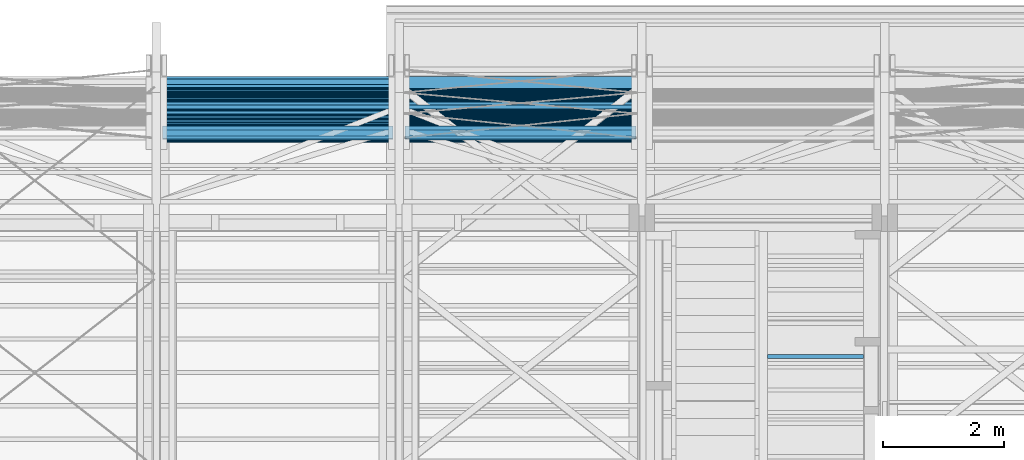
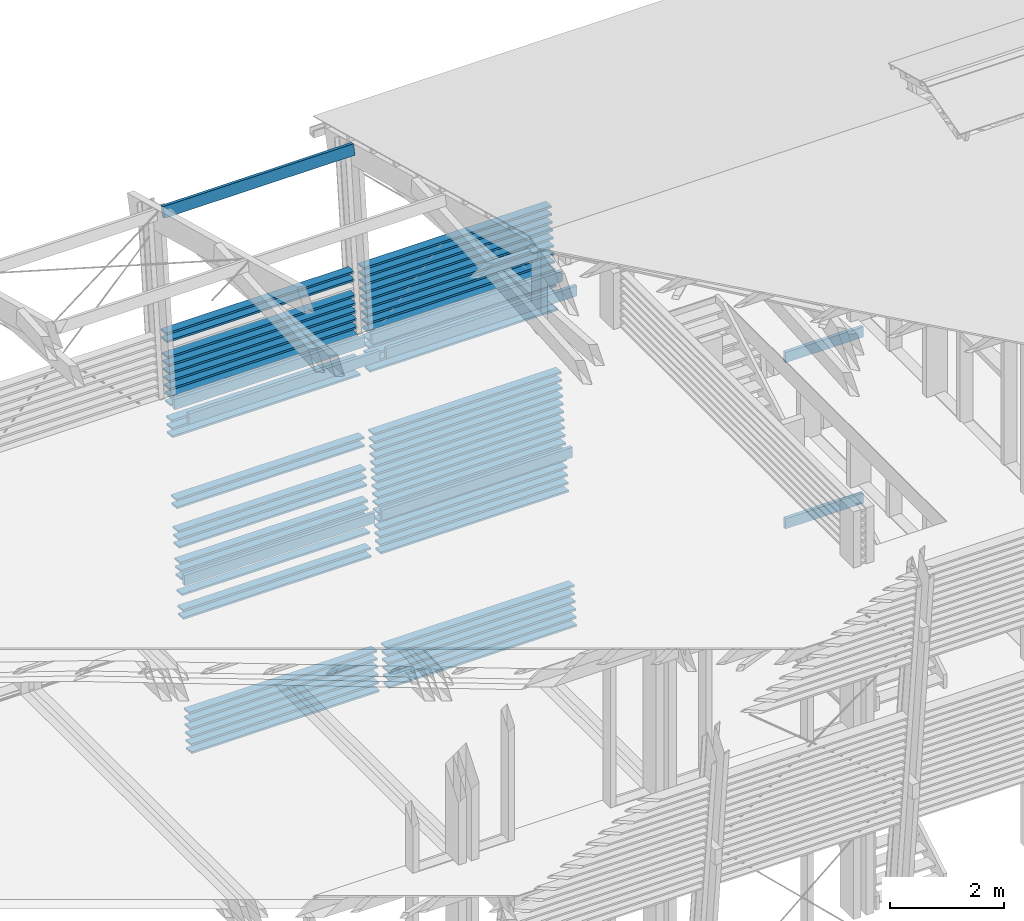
# One storey, part 14 of 48: 74 beams.
"""IFC2X3 building model written with IfcOpenShell, lengths in metres."""

from ifc_helpers import new_model, si_unit, direction, frame, origin_with_axes, place, context, subcontext, project, spatial, faceted_brep, material, element, save


model = new_model("IFC2X3")

# Units and contexts
model_context = context("Model", 3, precision=1e-06, world=origin_with_axes(), true_north=direction((0.0, 1.0, 0.0)))
body_context = subcontext(model_context, "Body", "Model", "MODEL_VIEW")
ifc_project = project(units=[si_unit("LENGTHUNIT", "METRE"), si_unit("AREAUNIT", "SQUARE_METRE"), si_unit("VOLUMEUNIT", "CUBIC_METRE"), si_unit("PLANEANGLEUNIT", "RADIAN")], contexts=[model_context])

# Site, building, storey
site_placement = place(None, origin_with_axes())
site = spatial("IfcSite", under=ifc_project, at=site_placement, CompositionType="ELEMENT")
building_placement = place(site_placement, origin_with_axes())
building = spatial("IfcBuilding", under=site, at=building_placement, Name="Building 1", CompositionType="ELEMENT")
storey_placement = place(building_placement, origin_with_axes())
storey = spatial("IfcBuildingStorey", under=building, at=storey_placement, Name="Storey 1", CompositionType="ELEMENT", Elevation=0.0)

# Beams
ifc_material_1 = material(Name="Moabi")
for number, where, z_axis, x_axis, name in (
    (1, (41.3927441, -182.9374055, 7.3963498), (0.0, -0.9945219, 0.1045285), (-1.0, 0.0, 0.0), "garde corp"),
    (2, (41.3927441, -182.8872319, 7.8737203), (0.0, -0.9945219, 0.1045285), (-1.0, 0.0, 0.0), "garde corp"),
):
    element("IfcBeam", number, at=place(storey_placement, frame(where, z_axis=z_axis, x_axis=x_axis)), inside=storey, material=ifc_material_1, Name=name, context=body_context, shape_type="Brep", body=[
        faceted_brep([(3.806, -0.02, 0.1), (3.806, 0.02, 0.1), (0.0, 0.02, 0.1), (0.0, -0.02, 0.1), (3.806, 0.02, -0.1), (0.0, 0.02, -0.1), (3.806, -0.02, -0.1), (0.0, -0.02, -0.1)], [[[0, 1, 2, 3]], [[1, 4, 5, 2]], [[4, 6, 7, 5]], [[6, 0, 3, 7]], [[1, 0, 6, 4]], [[7, 3, 2, 5]]]),
    ])
ifc_material_2 = material(Name="GL28h")
beam_1_placement = place(storey_placement, frame((43.5597437, -187.2830698, 7.699), z_axis=(0.0, 0.0, 1.0), x_axis=(1.0, 0.0, 0.0)))
element("IfcBeam", 3, at=beam_1_placement, inside=storey, material=ifc_material_2, Name="Solive", context=body_context, shape_type="Brep", body=[
    faceted_brep([(1.58, 0.035, -0.11), (1.58, -0.035, -0.11), (0.0, -0.035, -0.11), (0.0, 0.035, -0.11), (1.58, -0.035, 0.11), (0.0, -0.035, 0.11), (1.58, 0.035, 0.11), (0.0, 0.035, 0.11)], [[[0, 1, 2, 3]], [[1, 4, 5, 2]], [[4, 6, 7, 5]], [[6, 0, 3, 7]], [[0, 6, 4, 1]], [[5, 7, 3, 2]]]),
])
for number, where, z_axis, x_axis, name in (
    (4, (41.3927441, -183.6565614, 0.5540392), (0.0, -0.9945219, 0.1045285), (-1.0, 0.0, 0.0), "garde corp"),
    (5, (41.3927441, -183.6063877, 1.0314097), (0.0, -0.9945219, 0.1045285), (-1.0, 0.0, 0.0), "garde corp"),
):
    element("IfcBeam", number, at=place(storey_placement, frame(where, z_axis=z_axis, x_axis=x_axis)), inside=storey, material=ifc_material_1, Name=name, context=body_context, shape_type="Brep", body=[
        faceted_brep([(3.806, -0.02, 0.1), (3.806, 0.02, 0.1), (0.0, 0.02, 0.1), (0.0, -0.02, 0.1), (3.806, 0.02, -0.1), (0.0, 0.02, -0.1), (3.806, -0.02, -0.1), (0.0, -0.02, -0.1)], [[[0, 1, 2, 3]], [[1, 4, 5, 2]], [[4, 6, 7, 5]], [[6, 0, 3, 7]], [[1, 0, 6, 4]], [[7, 3, 2, 5]]]),
    ])
beam_2_placement = place(storey_placement, frame((37.3927439, -183.1381002, 5.4868678), z_axis=(0.0, -0.9945219, 0.1045285), x_axis=(-1.0, 0.0, 0.0)))
element("IfcBeam", 6, at=beam_2_placement, inside=storey, material=ifc_material_1, Name="garde corp", context=body_context, shape_type="Brep", body=[
    faceted_brep([(3.8047071, -0.02, 0.1), (3.8047079, 0.02, 0.1), (0.0, 0.02, 0.1), (0.0, -0.02, 0.1), (3.8047077, 0.02, -0.1), (0.0, 0.02, -0.1), (3.8047071, -0.02, -0.1), (0.0, -0.02, -0.1)], [[[0, 1, 2, 3]], [[1, 4, 5, 2]], [[4, 6, 7, 5]], [[6, 0, 3, 7]], [[1, 0, 6, 4]], [[7, 3, 2, 5]]]),
])
beam_3_placement = place(storey_placement, frame((37.3927439, -183.5896631, 1.1905332), z_axis=(0.0, -0.9945219, 0.1045285), x_axis=(-1.0, 0.0, 0.0)))
element("IfcBeam", 7, at=beam_3_placement, inside=storey, material=ifc_material_1, Name="garde corp", context=body_context, shape_type="Brep", body=[
    faceted_brep([(3.803, -0.02, 0.1), (3.803, 0.02, 0.1), (0.0, 0.02, 0.1), (0.0, -0.02, 0.1), (3.803, 0.02, -0.1), (0.0, 0.02, -0.1), (3.803, -0.02, -0.1), (0.0, -0.02, -0.1)], [[[0, 1, 2, 3]], [[1, 4, 5, 2]], [[4, 6, 7, 5]], [[6, 0, 3, 7]], [[1, 0, 6, 4]], [[7, 3, 2, 5]]]),
])
for number, where, z_axis, x_axis, name in (
    (8, (37.3927439, -183.2886212, 4.0547563), (0.0, -0.9945219, 0.1045285), (-1.0, 0.0, 0.0), "garde corp"),
    (9, (37.3927439, -183.2718966, 4.2138798), (0.0, -0.9945219, 0.1045285), (-1.0, 0.0, 0.0), "garde corp"),
):
    element("IfcBeam", number, at=place(storey_placement, frame(where, z_axis=z_axis, x_axis=x_axis)), inside=storey, material=ifc_material_1, Name=name, context=body_context, shape_type="Brep", body=[
        faceted_brep([(3.8048051, -0.02, 0.1), (3.8048051, 0.02, 0.1), (0.0, 0.02, 0.1), (0.0, -0.02, 0.1), (3.8048051, 0.02, -0.1), (0.0, 0.02, -0.1), (3.8048051, -0.02, -0.1), (0.0, -0.02, -0.1)], [[[0, 1, 2, 3]], [[1, 4, 5, 2]], [[4, 6, 7, 5]], [[6, 0, 3, 7]], [[1, 0, 6, 4]], [[7, 3, 2, 5]]]),
    ])
beam_4_placement = place(storey_placement, frame((41.3927439, -183.1213756, 5.6459913), z_axis=(0.0, -0.9945219, 0.1045285), x_axis=(-1.0, 0.0, 0.0)))
element("IfcBeam", 10, at=beam_4_placement, inside=storey, material=ifc_material_1, Name="garde corp", context=body_context, shape_type="Brep", body=[
    faceted_brep([(3.8048053, -0.02, 0.1), (3.8048053, 0.02, 0.1), (0.0, 0.02, 0.1), (0.0, -0.02, 0.1), (3.8048051, 0.02, -0.1), (0.0, 0.02, -0.1), (3.8048053, -0.02, -0.1), (0.0, -0.02, -0.1)], [[[0, 1, 2, 3]], [[1, 4, 5, 2]], [[4, 6, 7, 5]], [[6, 0, 3, 7]], [[1, 0, 6, 4]], [[7, 3, 2, 5]]]),
])
beam_5_placement = place(storey_placement, frame((37.3927439, -183.3555194, 3.4182623), z_axis=(0.0, -0.9945219, 0.1045285), x_axis=(-1.0, 0.0, 0.0)))
element("IfcBeam", 11, at=beam_5_placement, inside=storey, material=ifc_material_1, Name="garde corp", context=body_context, shape_type="Brep", body=[
    faceted_brep([(3.8047073, -0.02, 0.1), (3.8047077, 0.02, 0.1), (0.0, 0.02, 0.1), (0.0, -0.02, 0.1), (3.8047077, 0.02, -0.1), (0.0, 0.02, -0.1), (3.8047077, -0.02, -0.1), (0.0, -0.02, -0.1)], [[[0, 1, 2, 3]], [[1, 4, 5, 2]], [[4, 6, 7, 5]], [[6, 0, 3, 7]], [[1, 0, 6, 4]], [[7, 3, 2, 5]]]),
])
beam_6_placement = place(storey_placement, frame((37.3927439, -183.1213756, 5.6459913), z_axis=(0.0, -0.9945219, 0.1045285), x_axis=(-1.0, 0.0, 0.0)))
element("IfcBeam", 12, at=beam_6_placement, inside=storey, material=ifc_material_1, Name="garde corp", context=body_context, shape_type="Brep", body=[
    faceted_brep([(3.8048053, -0.02, 0.1), (3.8048053, 0.02, 0.1), (0.0, 0.02, 0.1), (0.0, -0.02, 0.1), (3.8048051, 0.02, -0.1), (0.0, 0.02, -0.1), (3.8048053, -0.02, -0.1), (0.0, -0.02, -0.1)], [[[0, 1, 2, 3]], [[1, 4, 5, 2]], [[4, 6, 7, 5]], [[6, 0, 3, 7]], [[1, 0, 6, 4]], [[7, 3, 2, 5]]]),
])
beam_7_placement = place(storey_placement, frame((37.3927439, -183.1882738, 5.0094973), z_axis=(0.0, -0.9945219, 0.1045285), x_axis=(-1.0, 0.0, 0.0)))
element("IfcBeam", 13, at=beam_7_placement, inside=storey, material=ifc_material_1, Name="garde corp", context=body_context, shape_type="Brep", body=[
    faceted_brep([(3.8047077, -0.02, 0.1), (3.8047077, 0.02, 0.1), (0.0, 0.02, 0.1), (0.0, -0.02, 0.1), (3.8047077, 0.02, -0.1), (0.0, 0.02, -0.1), (3.8047077, -0.02, -0.1), (0.0, -0.02, -0.1)], [[[0, 1, 2, 3]], [[1, 4, 5, 2]], [[4, 6, 7, 5]], [[6, 0, 3, 7]], [[1, 0, 6, 4]], [[7, 3, 2, 5]]]),
])
beam_8_placement = place(storey_placement, frame((37.3927441, -182.7868846, 8.8284614), z_axis=(0.0, -0.9945219, 0.1045285), x_axis=(-1.0, 0.0, 0.0)))
element("IfcBeam", 14, at=beam_8_placement, inside=storey, material=ifc_material_1, Name="garde corp", context=body_context, shape_type="Brep", body=[
    faceted_brep([(3.806, -0.02, 0.1), (3.806, 0.02, 0.1), (0.0, 0.02, 0.1), (0.0, -0.02, 0.1), (3.806, 0.02, -0.1), (0.0, 0.02, -0.1), (3.806, -0.02, -0.1), (0.0, -0.02, -0.1)], [[[0, 1, 2, 3]], [[1, 4, 5, 2]], [[4, 6, 7, 5]], [[6, 0, 3, 7]], [[1, 0, 6, 4]], [[7, 3, 2, 5]]]),
])
beam_9_placement = place(storey_placement, frame((41.3927439, -183.3387948, 3.5773858), z_axis=(0.0, -0.9945219, 0.1045285), x_axis=(-1.0, 0.0, 0.0)))
element("IfcBeam", 15, at=beam_9_placement, inside=storey, material=ifc_material_1, Name="garde corp", context=body_context, shape_type="Brep", body=[
    faceted_brep([(3.8047077, -0.02, 0.1), (3.8047077, 0.02, 0.1), (0.0, 0.02, 0.1), (0.0, -0.02, 0.1), (3.8047077, 0.02, -0.1), (0.0, 0.02, -0.1), (3.8047077, -0.02, -0.1), (0.0, -0.02, -0.1)], [[[0, 1, 2, 3]], [[1, 4, 5, 2]], [[4, 6, 7, 5]], [[6, 0, 3, 7]], [[1, 0, 6, 4]], [[7, 3, 2, 5]]]),
])
beam_10_placement = place(storey_placement, frame((37.3927439, -183.2049984, 4.8503738), z_axis=(0.0, -0.9945219, 0.1045285), x_axis=(-1.0, 0.0, 0.0)))
element("IfcBeam", 16, at=beam_10_placement, inside=storey, material=ifc_material_1, Name="garde corp", context=body_context, shape_type="Brep", body=[
    faceted_brep([(3.8048053, -0.02, 0.1), (3.8048053, 0.02, 0.1), (0.0, 0.02, 0.1), (0.0, -0.02, 0.1), (3.8048051, 0.02, -0.1), (0.0, 0.02, -0.1), (3.8048053, -0.02, -0.1), (0.0, -0.02, -0.1)], [[[0, 1, 2, 3]], [[1, 4, 5, 2]], [[4, 6, 7, 5]], [[6, 0, 3, 7]], [[1, 0, 6, 4]], [[7, 3, 2, 5]]]),
])
beam_11_placement = place(storey_placement, frame((37.3927439, -183.221723, 4.6912503), z_axis=(0.0, -0.9945219, 0.1045285), x_axis=(-1.0, 0.0, 0.0)))
element("IfcBeam", 17, at=beam_11_placement, inside=storey, material=ifc_material_1, Name="garde corp", context=body_context, shape_type="Brep", body=[
    faceted_brep([(3.8047071, -0.02, 0.1), (3.8047079, 0.02, 0.1), (0.0, 0.02, 0.1), (0.0, -0.02, 0.1), (3.8047071, 0.02, -0.1), (0.0, 0.02, -0.1), (3.8047071, -0.02, -0.1), (0.0, -0.02, -0.1)], [[[0, 1, 2, 3]], [[1, 4, 5, 2]], [[4, 6, 7, 5]], [[6, 0, 3, 7]], [[1, 0, 6, 4]], [[7, 3, 2, 5]]]),
])
beam_12_placement = place(storey_placement, frame((37.3927439, -183.2551721, 4.3730033), z_axis=(0.0, -0.9945219, 0.1045285), x_axis=(-1.0, 0.0, 0.0)))
element("IfcBeam", 18, at=beam_12_placement, inside=storey, material=ifc_material_1, Name="garde corp", context=body_context, shape_type="Brep", body=[
    faceted_brep([(3.8048051, -0.02, 0.1), (3.8048051, 0.02, 0.1), (0.0, 0.02, 0.1), (0.0, -0.02, 0.1), (3.8048051, 0.02, -0.1), (0.0, 0.02, -0.1), (3.8048051, -0.02, -0.1), (0.0, -0.02, -0.1)], [[[0, 1, 2, 3]], [[1, 4, 5, 2]], [[4, 6, 7, 5]], [[6, 0, 3, 7]], [[1, 0, 6, 4]], [[7, 3, 2, 5]]]),
])
beam_13_placement = place(storey_placement, frame((37.3927439, -183.6565614, 0.5540392), z_axis=(0.0, -0.9945219, 0.1045285), x_axis=(-1.0, 0.0, 0.0)))
element("IfcBeam", 19, at=beam_13_placement, inside=storey, material=ifc_material_1, Name="garde corp", context=body_context, shape_type="Brep", body=[
    faceted_brep([(3.803, -0.02, 0.1), (3.803, 0.02, 0.1), (0.0, 0.02, 0.1), (0.0, -0.02, 0.1), (3.803, 0.02, -0.1), (0.0, 0.02, -0.1), (3.803, -0.02, -0.1), (0.0, -0.02, -0.1)], [[[0, 1, 2, 3]], [[1, 4, 5, 2]], [[4, 6, 7, 5]], [[6, 0, 3, 7]], [[1, 0, 6, 4]], [[7, 3, 2, 5]]]),
])
beam_14_placement = place(storey_placement, frame((37.3927441, -182.9541301, 7.2372263), z_axis=(0.0, -0.9945219, 0.1045285), x_axis=(-1.0, 0.0, 0.0)))
element("IfcBeam", 20, at=beam_14_placement, inside=storey, material=ifc_material_1, Name="garde corp", context=body_context, shape_type="Brep", body=[
    faceted_brep([(3.806, -0.02, 0.1), (3.806, 0.02, 0.1), (0.0, 0.02, 0.1), (0.0, -0.02, 0.1), (3.806, 0.02, -0.1), (0.0, 0.02, -0.1), (3.806, -0.02, -0.1), (0.0, -0.02, -0.1)], [[[0, 1, 2, 3]], [[1, 4, 5, 2]], [[4, 6, 7, 5]], [[6, 0, 3, 7]], [[1, 0, 6, 4]], [[7, 3, 2, 5]]]),
])
beam_15_placement = place(storey_placement, frame((37.3927439, -183.5729386, 1.3496567), z_axis=(0.0, -0.9945219, 0.1045285), x_axis=(-1.0, 0.0, 0.0)))
element("IfcBeam", 21, at=beam_15_placement, inside=storey, material=ifc_material_1, Name="garde corp", context=body_context, shape_type="Brep", body=[
    faceted_brep([(3.803, -0.02, 0.1), (3.803, 0.02, 0.1), (0.0, 0.02, 0.1), (0.0, -0.02, 0.1), (3.803, 0.02, -0.1), (0.0, 0.02, -0.1), (3.803, -0.02, -0.1), (0.0, -0.02, -0.1)], [[[0, 1, 2, 3]], [[1, 4, 5, 2]], [[4, 6, 7, 5]], [[6, 0, 3, 7]], [[1, 0, 6, 4]], [[7, 3, 2, 5]]]),
])
for number, where, z_axis, x_axis, name in (
    (22, (37.3927441, -182.8203337, 8.5102144), (0.0, -0.9945219, 0.1045285), (-1.0, 0.0, 0.0), "garde corp"),
    (23, (37.3927437, -182.77016, 8.9875849), (0.0, -0.9945219, 0.1045285), (-1.0, 0.0, 0.0), "garde corp"),
):
    element("IfcBeam", number, at=place(storey_placement, frame(where, z_axis=z_axis, x_axis=x_axis)), inside=storey, material=ifc_material_1, Name=name, context=body_context, shape_type="Brep", body=[
        faceted_brep([(3.806, -0.02, 0.1), (3.806, 0.02, 0.1), (0.0, 0.02, 0.1), (0.0, -0.02, 0.1), (3.806, 0.02, -0.1), (0.0, 0.02, -0.1), (3.806, -0.02, -0.1), (0.0, -0.02, -0.1)], [[[0, 1, 2, 3]], [[1, 4, 5, 2]], [[4, 6, 7, 5]], [[6, 0, 3, 7]], [[1, 0, 6, 4]], [[7, 3, 2, 5]]]),
    ])
beam_16_placement = place(storey_placement, frame((37.3927439, -183.3722439, 3.2591388), z_axis=(0.0, -0.9945219, 0.1045285), x_axis=(-1.0, 0.0, 0.0)))
element("IfcBeam", 24, at=beam_16_placement, inside=storey, material=ifc_material_1, Name="garde corp", context=body_context, shape_type="Brep", body=[
    faceted_brep([(3.8048051, -0.02, 0.1), (3.8048051, 0.02, 0.1), (0.0, 0.02, 0.1), (0.0, -0.02, 0.1), (3.8048051, 0.02, -0.1), (0.0, 0.02, -0.1), (3.8048051, -0.02, -0.1), (0.0, -0.02, -0.1)], [[[0, 1, 2, 3]], [[1, 4, 5, 2]], [[4, 6, 7, 5]], [[6, 0, 3, 7]], [[1, 0, 6, 4]], [[7, 3, 2, 5]]]),
])
beam_17_placement = place(storey_placement, frame((41.3927439, -183.3220703, 3.7365093), z_axis=(0.0, -0.9945219, 0.1045285), x_axis=(-1.0, 0.0, 0.0)))
element("IfcBeam", 25, at=beam_17_placement, inside=storey, material=ifc_material_1, Name="garde corp", context=body_context, shape_type="Brep", body=[
    faceted_brep([(3.8047073, -0.02, 0.1), (3.8047077, 0.02, 0.1), (0.0, 0.02, 0.1), (0.0, -0.02, 0.1), (3.8047077, 0.02, -0.1), (0.0, 0.02, -0.1), (3.8047077, -0.02, -0.1), (0.0, -0.02, -0.1)], [[[0, 1, 2, 3]], [[1, 4, 5, 2]], [[4, 6, 7, 5]], [[6, 0, 3, 7]], [[1, 0, 6, 4]], [[7, 3, 2, 5]]]),
])
beam_18_placement = place(storey_placement, frame((37.3927439, -183.6231123, 0.8722862), z_axis=(0.0, -0.9945219, 0.1045285), x_axis=(-1.0, 0.0, 0.0)))
element("IfcBeam", 26, at=beam_18_placement, inside=storey, material=ifc_material_1, Name="garde corp", context=body_context, shape_type="Brep", body=[
    faceted_brep([(3.803, -0.02, 0.1), (3.803, 0.02, 0.1), (0.0, 0.02, 0.1), (0.0, -0.02, 0.1), (3.803, 0.02, -0.1), (0.0, 0.02, -0.1), (3.803, -0.02, -0.1), (0.0, -0.02, -0.1)], [[[0, 1, 2, 3]], [[1, 4, 5, 2]], [[4, 6, 7, 5]], [[6, 0, 3, 7]], [[1, 0, 6, 4]], [[7, 3, 2, 5]]]),
])
beam_19_placement = place(storey_placement, frame((37.3927439, -183.3220703, 3.7365093), z_axis=(0.0, -0.9945219, 0.1045285), x_axis=(-1.0, 0.0, 0.0)))
element("IfcBeam", 27, at=beam_19_placement, inside=storey, material=ifc_material_1, Name="garde corp", context=body_context, shape_type="Brep", body=[
    faceted_brep([(3.8047073, -0.02, 0.1), (3.8047077, 0.02, 0.1), (0.0, 0.02, 0.1), (0.0, -0.02, 0.1), (3.8047077, 0.02, -0.1), (0.0, 0.02, -0.1), (3.8047077, -0.02, -0.1), (0.0, -0.02, -0.1)], [[[0, 1, 2, 3]], [[1, 4, 5, 2]], [[4, 6, 7, 5]], [[6, 0, 3, 7]], [[1, 0, 6, 4]], [[7, 3, 2, 5]]]),
])
beam_20_placement = place(storey_placement, frame((37.3927439, -183.6063877, 1.0314097), z_axis=(0.0, -0.9945219, 0.1045285), x_axis=(-1.0, 0.0, 0.0)))
element("IfcBeam", 28, at=beam_20_placement, inside=storey, material=ifc_material_1, Name="garde corp", context=body_context, shape_type="Brep", body=[
    faceted_brep([(3.803, -0.02, 0.1), (3.803, 0.02, 0.1), (0.0, 0.02, 0.1), (0.0, -0.02, 0.1), (3.803, 0.02, -0.1), (0.0, 0.02, -0.1), (3.803, -0.02, -0.1), (0.0, -0.02, -0.1)], [[[0, 1, 2, 3]], [[1, 4, 5, 2]], [[4, 6, 7, 5]], [[6, 0, 3, 7]], [[1, 0, 6, 4]], [[7, 3, 2, 5]]]),
])
for number, where, z_axis, x_axis, name in (
    (29, (41.3927441, -182.9039564, 7.7145968), (0.0, -0.9945219, 0.1045285), (-1.0, 0.0, 0.0), "garde corp"),
    (30, (37.3927441, -182.8370582, 8.3510909), (0.0, -0.9945219, 0.1045285), (-1.0, 0.0, 0.0), "garde corp"),
    (31, (41.3927441, -183.5729386, 1.3496567), (0.0, -0.9945219, 0.1045285), (-1.0, 0.0, 0.0), "garde corp"),
):
    element("IfcBeam", number, at=place(storey_placement, frame(where, z_axis=z_axis, x_axis=x_axis)), inside=storey, material=ifc_material_1, Name=name, context=body_context, shape_type="Brep", body=[
        faceted_brep([(3.806, -0.02, 0.1), (3.806, 0.02, 0.1), (0.0, 0.02, 0.1), (0.0, -0.02, 0.1), (3.806, 0.02, -0.1), (0.0, 0.02, -0.1), (3.806, -0.02, -0.1), (0.0, -0.02, -0.1)], [[[0, 1, 2, 3]], [[1, 4, 5, 2]], [[4, 6, 7, 5]], [[6, 0, 3, 7]], [[1, 0, 6, 4]], [[7, 3, 2, 5]]]),
    ])
beam_21_placement = place(storey_placement, frame((41.3927439, -183.1381002, 5.4868678), z_axis=(0.0, -0.9945219, 0.1045285), x_axis=(-1.0, 0.0, 0.0)))
element("IfcBeam", 32, at=beam_21_placement, inside=storey, material=ifc_material_1, Name="garde corp", context=body_context, shape_type="Brep", body=[
    faceted_brep([(3.8047071, -0.02, 0.1), (3.8047079, 0.02, 0.1), (0.0, 0.02, 0.1), (0.0, -0.02, 0.1), (3.8047077, 0.02, -0.1), (0.0, 0.02, -0.1), (3.8047071, -0.02, -0.1), (0.0, -0.02, -0.1)], [[[0, 1, 2, 3]], [[1, 4, 5, 2]], [[4, 6, 7, 5]], [[6, 0, 3, 7]], [[1, 0, 6, 4]], [[7, 3, 2, 5]]]),
])
for number, where, z_axis, x_axis, name in (
    (33, (37.3927441, -182.920681, 7.5554733), (0.0, -0.9945219, 0.1045285), (-1.0, 0.0, 0.0), "garde corp"),
    (34, (41.3927437, -182.8036091, 8.6693379), (0.0, -0.9945219, 0.1045285), (-1.0, 0.0, 0.0), "garde corp"),
):
    element("IfcBeam", number, at=place(storey_placement, frame(where, z_axis=z_axis, x_axis=x_axis)), inside=storey, material=ifc_material_1, Name=name, context=body_context, shape_type="Brep", body=[
        faceted_brep([(3.806, -0.02, 0.1), (3.806, 0.02, 0.1), (0.0, 0.02, 0.1), (0.0, -0.02, 0.1), (3.806, 0.02, -0.1), (0.0, 0.02, -0.1), (3.806, -0.02, -0.1), (0.0, -0.02, -0.1)], [[[0, 1, 2, 3]], [[1, 4, 5, 2]], [[4, 6, 7, 5]], [[6, 0, 3, 7]], [[1, 0, 6, 4]], [[7, 3, 2, 5]]]),
    ])
beam_22_placement = place(storey_placement, frame((41.3927439, -183.2718966, 4.2138798), z_axis=(0.0, -0.9945219, 0.1045285), x_axis=(-1.0, 0.0, 0.0)))
element("IfcBeam", 35, at=beam_22_placement, inside=storey, material=ifc_material_1, Name="garde corp", context=body_context, shape_type="Brep", body=[
    faceted_brep([(3.8048051, -0.02, 0.1), (3.8048051, 0.02, 0.1), (0.0, 0.02, 0.1), (0.0, -0.02, 0.1), (3.8048051, 0.02, -0.1), (0.0, 0.02, -0.1), (3.8048051, -0.02, -0.1), (0.0, -0.02, -0.1)], [[[0, 1, 2, 3]], [[1, 4, 5, 2]], [[4, 6, 7, 5]], [[6, 0, 3, 7]], [[1, 0, 6, 4]], [[7, 3, 2, 5]]]),
])
for number, where, z_axis, x_axis, name in (
    (36, (37.3927441, -182.9875792, 6.9189793), (0.0, -0.9945219, 0.1045285), (-1.0, 0.0, 0.0), "garde corp"),
    (37, (41.3927441, -183.6398368, 0.7131627), (0.0, -0.9945219, 0.1045285), (-1.0, 0.0, 0.0), "garde corp"),
):
    element("IfcBeam", number, at=place(storey_placement, frame(where, z_axis=z_axis, x_axis=x_axis)), inside=storey, material=ifc_material_1, Name=name, context=body_context, shape_type="Brep", body=[
        faceted_brep([(3.806, -0.02, 0.1), (3.806, 0.02, 0.1), (0.0, 0.02, 0.1), (0.0, -0.02, 0.1), (3.806, 0.02, -0.1), (0.0, 0.02, -0.1), (3.806, -0.02, -0.1), (0.0, -0.02, -0.1)], [[[0, 1, 2, 3]], [[1, 4, 5, 2]], [[4, 6, 7, 5]], [[6, 0, 3, 7]], [[1, 0, 6, 4]], [[7, 3, 2, 5]]]),
    ])
beam_23_placement = place(storey_placement, frame((41.3927439, -183.1882738, 5.0094973), z_axis=(0.0, -0.9945219, 0.1045285), x_axis=(-1.0, 0.0, 0.0)))
element("IfcBeam", 38, at=beam_23_placement, inside=storey, material=ifc_material_1, Name="garde corp", context=body_context, shape_type="Brep", body=[
    faceted_brep([(3.8047077, -0.02, 0.1), (3.8047077, 0.02, 0.1), (0.0, 0.02, 0.1), (0.0, -0.02, 0.1), (3.8047077, 0.02, -0.1), (0.0, 0.02, -0.1), (3.8047077, -0.02, -0.1), (0.0, -0.02, -0.1)], [[[0, 1, 2, 3]], [[1, 4, 5, 2]], [[4, 6, 7, 5]], [[6, 0, 3, 7]], [[1, 0, 6, 4]], [[7, 3, 2, 5]]]),
])
beam_24_placement = place(storey_placement, frame((41.3927439, -183.3053457, 3.8956328), z_axis=(0.0, -0.9945219, 0.1045285), x_axis=(-1.0, 0.0, 0.0)))
element("IfcBeam", 39, at=beam_24_placement, inside=storey, material=ifc_material_1, Name="garde corp", context=body_context, shape_type="Brep", body=[
    faceted_brep([(3.8047073, -0.02, 0.1), (3.8047075, 0.02, 0.1), (0.0, 0.02, 0.1), (0.0, -0.02, 0.1), (3.8047077, 0.02, -0.1), (0.0, 0.02, -0.1), (3.8047077, -0.02, -0.1), (0.0, -0.02, -0.1)], [[[0, 1, 2, 3]], [[1, 4, 5, 2]], [[4, 6, 7, 5]], [[6, 0, 3, 7]], [[1, 0, 6, 4]], [[7, 3, 2, 5]]]),
])
beam_25_placement = place(storey_placement, frame((41.3927439, -183.221723, 4.6912503), z_axis=(0.0, -0.9945219, 0.1045285), x_axis=(-1.0, 0.0, 0.0)))
element("IfcBeam", 40, at=beam_25_placement, inside=storey, material=ifc_material_1, Name="garde corp", context=body_context, shape_type="Brep", body=[
    faceted_brep([(3.8047071, -0.02, 0.1), (3.8047079, 0.02, 0.1), (0.0, 0.02, 0.1), (0.0, -0.02, 0.1), (3.8047071, 0.02, -0.1), (0.0, 0.02, -0.1), (3.8047071, -0.02, -0.1), (0.0, -0.02, -0.1)], [[[0, 1, 2, 3]], [[1, 4, 5, 2]], [[4, 6, 7, 5]], [[6, 0, 3, 7]], [[1, 0, 6, 4]], [[7, 3, 2, 5]]]),
])
for number, where, z_axis, x_axis, name in (
    (41, (41.3927441, -183.5896631, 1.1905332), (0.0, -0.9945219, 0.1045285), (-1.0, 0.0, 0.0), "garde corp"),
    (42, (41.3927441, -183.6231123, 0.8722862), (0.0, -0.9945219, 0.1045285), (-1.0, 0.0, 0.0), "garde corp"),
):
    element("IfcBeam", number, at=place(storey_placement, frame(where, z_axis=z_axis, x_axis=x_axis)), inside=storey, material=ifc_material_1, Name=name, context=body_context, shape_type="Brep", body=[
        faceted_brep([(3.806, -0.02, 0.1), (3.806, 0.02, 0.1), (0.0, 0.02, 0.1), (0.0, -0.02, 0.1), (3.806, 0.02, -0.1), (0.0, 0.02, -0.1), (3.806, -0.02, -0.1), (0.0, -0.02, -0.1)], [[[0, 1, 2, 3]], [[1, 4, 5, 2]], [[4, 6, 7, 5]], [[6, 0, 3, 7]], [[1, 0, 6, 4]], [[7, 3, 2, 5]]]),
    ])
for number, where, z_axis, x_axis, name in (
    (43, (41.3927439, -183.1715493, 5.1686208), (0.0, -0.9945219, 0.1045285), (-1.0, 0.0, 0.0), "garde corp"),
    (44, (41.3927439, -183.1548247, 5.3277443), (0.0, -0.9945219, 0.1045285), (-1.0, 0.0, 0.0), "garde corp"),
):
    element("IfcBeam", number, at=place(storey_placement, frame(where, z_axis=z_axis, x_axis=x_axis)), inside=storey, material=ifc_material_1, Name=name, context=body_context, shape_type="Brep", body=[
        faceted_brep([(3.8048053, -0.02, 0.1), (3.8048053, 0.02, 0.1), (0.0, 0.02, 0.1), (0.0, -0.02, 0.1), (3.8048051, 0.02, -0.1), (0.0, 0.02, -0.1), (3.8048053, -0.02, -0.1), (0.0, -0.02, -0.1)], [[[0, 1, 2, 3]], [[1, 4, 5, 2]], [[4, 6, 7, 5]], [[6, 0, 3, 7]], [[1, 0, 6, 4]], [[7, 3, 2, 5]]]),
    ])
beam_26_placement = place(storey_placement, frame((37.3927441, -182.8872319, 7.8737203), z_axis=(0.0, -0.9945219, 0.1045285), x_axis=(-1.0, 0.0, 0.0)))
element("IfcBeam", 45, at=beam_26_placement, inside=storey, material=ifc_material_1, Name="garde corp", context=body_context, shape_type="Brep", body=[
    faceted_brep([(3.806, -0.02, 0.1), (3.806, 0.02, 0.1), (0.0, 0.02, 0.1), (0.0, -0.02, 0.1), (3.806, 0.02, -0.1), (0.0, 0.02, -0.1), (3.806, -0.02, -0.1), (0.0, -0.02, -0.1)], [[[0, 1, 2, 3]], [[1, 4, 5, 2]], [[4, 6, 7, 5]], [[6, 0, 3, 7]], [[1, 0, 6, 4]], [[7, 3, 2, 5]]]),
])
beam_27_placement = place(storey_placement, frame((41.3927439, -183.3555194, 3.4182623), z_axis=(0.0, -0.9945219, 0.1045285), x_axis=(-1.0, 0.0, 0.0)))
element("IfcBeam", 46, at=beam_27_placement, inside=storey, material=ifc_material_1, Name="garde corp", context=body_context, shape_type="Brep", body=[
    faceted_brep([(3.8047073, -0.02, 0.1), (3.8047077, 0.02, 0.1), (0.0, 0.02, 0.1), (0.0, -0.02, 0.1), (3.8047077, 0.02, -0.1), (0.0, 0.02, -0.1), (3.8047077, -0.02, -0.1), (0.0, -0.02, -0.1)], [[[0, 1, 2, 3]], [[1, 4, 5, 2]], [[4, 6, 7, 5]], [[6, 0, 3, 7]], [[1, 0, 6, 4]], [[7, 3, 2, 5]]]),
])
for number, where, z_axis, x_axis, name in (
    (47, (41.3927441, -182.8537828, 8.1919674), (0.0, -0.9945219, 0.1045285), (-1.0, 0.0, 0.0), "garde corp"),
    (48, (37.3927441, -182.9708546, 7.0781028), (0.0, -0.9945219, 0.1045285), (-1.0, 0.0, 0.0), "garde corp"),
):
    element("IfcBeam", number, at=place(storey_placement, frame(where, z_axis=z_axis, x_axis=x_axis)), inside=storey, material=ifc_material_1, Name=name, context=body_context, shape_type="Brep", body=[
        faceted_brep([(3.806, -0.02, 0.1), (3.806, 0.02, 0.1), (0.0, 0.02, 0.1), (0.0, -0.02, 0.1), (3.806, 0.02, -0.1), (0.0, 0.02, -0.1), (3.806, -0.02, -0.1), (0.0, -0.02, -0.1)], [[[0, 1, 2, 3]], [[1, 4, 5, 2]], [[4, 6, 7, 5]], [[6, 0, 3, 7]], [[1, 0, 6, 4]], [[7, 3, 2, 5]]]),
    ])
beam_28_placement = place(storey_placement, frame((41.3927439, -183.3722439, 3.2591388), z_axis=(0.0, -0.9945219, 0.1045285), x_axis=(-1.0, 0.0, 0.0)))
element("IfcBeam", 49, at=beam_28_placement, inside=storey, material=ifc_material_1, Name="garde corp", context=body_context, shape_type="Brep", body=[
    faceted_brep([(3.8048051, -0.02, 0.1), (3.8048051, 0.02, 0.1), (0.0, 0.02, 0.1), (0.0, -0.02, 0.1), (3.8048051, 0.02, -0.1), (0.0, 0.02, -0.1), (3.8048051, -0.02, -0.1), (0.0, -0.02, -0.1)], [[[0, 1, 2, 3]], [[1, 4, 5, 2]], [[4, 6, 7, 5]], [[6, 0, 3, 7]], [[1, 0, 6, 4]], [[7, 3, 2, 5]]]),
])
beam_29_placement = place(storey_placement, frame((37.3927441, -182.9039564, 7.7145968), z_axis=(0.0, -0.9945219, 0.1045285), x_axis=(-1.0, 0.0, 0.0)))
element("IfcBeam", 50, at=beam_29_placement, inside=storey, material=ifc_material_1, Name="garde corp", context=body_context, shape_type="Brep", body=[
    faceted_brep([(3.806, -0.02, 0.1), (3.806, 0.02, 0.1), (0.0, 0.02, 0.1), (0.0, -0.02, 0.1), (3.806, 0.02, -0.1), (0.0, 0.02, -0.1), (3.806, -0.02, -0.1), (0.0, -0.02, -0.1)], [[[0, 1, 2, 3]], [[1, 4, 5, 2]], [[4, 6, 7, 5]], [[6, 0, 3, 7]], [[1, 0, 6, 4]], [[7, 3, 2, 5]]]),
])
beam_30_placement = place(storey_placement, frame((37.3927439, -183.6398368, 0.7131627), z_axis=(0.0, -0.9945219, 0.1045285), x_axis=(-1.0, 0.0, 0.0)))
element("IfcBeam", 51, at=beam_30_placement, inside=storey, material=ifc_material_1, Name="garde corp", context=body_context, shape_type="Brep", body=[
    faceted_brep([(3.803, -0.02, 0.1), (3.803, 0.02, 0.1), (0.0, 0.02, 0.1), (0.0, -0.02, 0.1), (3.803, 0.02, -0.1), (0.0, 0.02, -0.1), (3.803, -0.02, -0.1), (0.0, -0.02, -0.1)], [[[0, 1, 2, 3]], [[1, 4, 5, 2]], [[4, 6, 7, 5]], [[6, 0, 3, 7]], [[1, 0, 6, 4]], [[7, 3, 2, 5]]]),
])
for number, where, z_axis, x_axis, name in (
    (52, (41.3927441, -182.9875792, 6.9189793), (0.0, -0.9945219, 0.1045285), (-1.0, 0.0, 0.0), "garde corp"),
    (53, (37.3927441, -182.8537828, 8.1919674), (0.0, -0.9945219, 0.1045285), (-1.0, 0.0, 0.0), "garde corp"),
    (54, (37.3927437, -182.8705073, 8.0328439), (0.0, -0.9945219, 0.1045285), (-1.0, 0.0, 0.0), "garde corp"),
):
    element("IfcBeam", number, at=place(storey_placement, frame(where, z_axis=z_axis, x_axis=x_axis)), inside=storey, material=ifc_material_1, Name=name, context=body_context, shape_type="Brep", body=[
        faceted_brep([(3.806, -0.02, 0.1), (3.806, 0.02, 0.1), (0.0, 0.02, 0.1), (0.0, -0.02, 0.1), (3.806, 0.02, -0.1), (0.0, 0.02, -0.1), (3.806, -0.02, -0.1), (0.0, -0.02, -0.1)], [[[0, 1, 2, 3]], [[1, 4, 5, 2]], [[4, 6, 7, 5]], [[6, 0, 3, 7]], [[1, 0, 6, 4]], [[7, 3, 2, 5]]]),
    ])
beam_31_placement = place(storey_placement, frame((41.3927439, -183.2551721, 4.3730033), z_axis=(0.0, -0.9945219, 0.1045285), x_axis=(-1.0, 0.0, 0.0)))
element("IfcBeam", 55, at=beam_31_placement, inside=storey, material=ifc_material_1, Name="garde corp", context=body_context, shape_type="Brep", body=[
    faceted_brep([(3.8048051, -0.02, 0.1), (3.8048051, 0.02, 0.1), (0.0, 0.02, 0.1), (0.0, -0.02, 0.1), (3.8048051, 0.02, -0.1), (0.0, 0.02, -0.1), (3.8048051, -0.02, -0.1), (0.0, -0.02, -0.1)], [[[0, 1, 2, 3]], [[1, 4, 5, 2]], [[4, 6, 7, 5]], [[6, 0, 3, 7]], [[1, 0, 6, 4]], [[7, 3, 2, 5]]]),
])
beam_32_placement = place(storey_placement, frame((41.3927439, -183.2384475, 4.5321268), z_axis=(0.0, -0.9945219, 0.1045285), x_axis=(-1.0, 0.0, 0.0)))
element("IfcBeam", 56, at=beam_32_placement, inside=storey, material=ifc_material_1, Name="garde corp", context=body_context, shape_type="Brep", body=[
    faceted_brep([(3.8047077, -0.02, 0.1), (3.8047077, 0.02, 0.1), (0.0, 0.02, 0.1), (0.0, -0.02, 0.1), (3.8047077, 0.02, -0.1), (0.0, 0.02, -0.1), (3.8047077, -0.02, -0.1), (0.0, -0.02, -0.1)], [[[0, 1, 2, 3]], [[1, 4, 5, 2]], [[4, 6, 7, 5]], [[6, 0, 3, 7]], [[1, 0, 6, 4]], [[7, 3, 2, 5]]]),
])
beam_33_placement = place(storey_placement, frame((41.3927439, -183.2049984, 4.8503738), z_axis=(0.0, -0.9945219, 0.1045285), x_axis=(-1.0, 0.0, 0.0)))
element("IfcBeam", 57, at=beam_33_placement, inside=storey, material=ifc_material_1, Name="garde corp", context=body_context, shape_type="Brep", body=[
    faceted_brep([(3.8048053, -0.02, 0.1), (3.8048053, 0.02, 0.1), (0.0, 0.02, 0.1), (0.0, -0.02, 0.1), (3.8048051, 0.02, -0.1), (0.0, 0.02, -0.1), (3.8048053, -0.02, -0.1), (0.0, -0.02, -0.1)], [[[0, 1, 2, 3]], [[1, 4, 5, 2]], [[4, 6, 7, 5]], [[6, 0, 3, 7]], [[1, 0, 6, 4]], [[7, 3, 2, 5]]]),
])
for number, where, z_axis, x_axis in (
    (58, (37.5597433, -183.6814881, 7.699), (0.0, 0.0, 1.0), (1.0, 0.0, 0.0)),
    (59, (33.5597433, -183.6814881, 7.699), (0.0, 0.0, 1.0), (1.0, 0.0, 0.0)),
):
    element("IfcBeam", number, at=place(storey_placement, frame(where, z_axis=z_axis, x_axis=x_axis)), inside=storey, material=ifc_material_2, Name="Solive", context=body_context, shape_type="Brep", body=[
        faceted_brep([(3.8600004, -0.035, -0.11), (3.8600004, 0.035, -0.11), (3.8600004, 0.035, 0.11), (3.8600004, -0.035, 0.11), (0.0, 0.035, -0.11), (0.0, 0.035, 0.11), (0.0, -0.035, -0.11), (0.0, -0.035, 0.11)], [[[0, 1, 2, 3]], [[2, 1, 4, 5]], [[1, 0, 6, 4]], [[0, 3, 7, 6]], [[3, 2, 5, 7]], [[7, 5, 4, 6]]]),
    ])
beam_34_placement = place(storey_placement, frame((43.5597437, -187.2830698, 4.139), z_axis=(0.0, 0.0, 1.0), x_axis=(1.0, 0.0, 0.0)))
element("IfcBeam", 60, at=beam_34_placement, inside=storey, material=ifc_material_2, Name="Solive", context=body_context, shape_type="Brep", body=[
    faceted_brep([(1.58, 0.035, -0.11), (1.58, -0.035, -0.11), (0.0, -0.035, -0.11), (0.0, 0.035, -0.11), (1.58, -0.035, 0.11), (0.0, -0.035, 0.11), (1.58, 0.035, 0.11), (0.0, 0.035, 0.11)], [[[0, 1, 2, 3]], [[1, 4, 5, 2]], [[4, 6, 7, 5]], [[6, 0, 3, 7]], [[0, 6, 4, 1]], [[5, 7, 3, 2]]]),
])
for number, where, z_axis, x_axis in (
    (61, (37.5597437, -183.1714881, 7.699), (0.0, 0.0, 1.0), (1.0, 0.0, 0.0)),
    (62, (37.5597437, -183.5174506, 4.139), (0.0, 0.0, 1.0), (1.0, 0.0, 0.0)),
):
    element("IfcBeam", number, at=place(storey_placement, frame(where, z_axis=z_axis, x_axis=x_axis)), inside=storey, material=ifc_material_2, Name="Solive", context=body_context, shape_type="Brep", body=[
        faceted_brep([(3.86, 0.035, 0.11), (3.86, 0.035, -0.11), (0.0, 0.035, -0.11), (0.0, 0.035, 0.11), (3.86, -0.035, -0.11), (0.0, -0.035, -0.11), (3.86, -0.035, 0.11), (0.0, -0.035, 0.11)], [[[0, 1, 2, 3]], [[1, 4, 5, 2]], [[4, 6, 7, 5]], [[6, 0, 3, 7]], [[1, 0, 6, 4]], [[7, 3, 2, 5]]]),
    ])
beam_35_placement = place(storey_placement, frame((33.5597433, -182.7827541, 11.5757268), z_axis=(0.0, 0.258819, 0.9659258), x_axis=(1.0, 0.0, 0.0)))
element("IfcBeam", 63, at=beam_35_placement, inside=storey, material=ifc_material_2, Name="Buton", context=body_context, shape_type="Brep", body=[
    faceted_brep([(3.8600004, -0.045, 0.11), (3.8600004, 0.045, 0.11), (0.0, 0.045, 0.11), (0.0, -0.045, 0.11), (3.8600004, -0.045, -0.11), (0.0, -0.045, -0.11), (3.8600004, 0.045, -0.11), (0.0, 0.045, -0.11)], [[[0, 1, 2, 3]], [[4, 0, 3, 5]], [[6, 4, 5, 7]], [[1, 6, 7, 2]], [[1, 0, 4, 6]], [[2, 7, 5, 3]]]),
])
beam_36_placement = place(storey_placement, frame((33.5597437, -183.5174506, 4.139), z_axis=(0.0, 0.0, 1.0), x_axis=(1.0, 0.0, 0.0)))
element("IfcBeam", 64, at=beam_36_placement, inside=storey, material=ifc_material_2, Name="Solive", context=body_context, shape_type="Brep", body=[
    faceted_brep([(3.86, 0.035, 0.11), (3.86, 0.035, -0.11), (0.0, 0.035, -0.11), (0.0, 0.035, 0.11), (3.86, -0.035, -0.11), (0.0, -0.035, -0.11), (3.86, -0.035, 0.11), (0.0, -0.035, 0.11)], [[[0, 1, 2, 3]], [[1, 4, 5, 2]], [[4, 6, 7, 5]], [[6, 0, 3, 7]], [[1, 0, 6, 4]], [[7, 3, 2, 5]]]),
])
for number, where, z_axis, x_axis, name in (
    (65, (41.3927441, -182.920681, 7.5554733), (0.0, -0.9945219, 0.1045285), (-1.0, 0.0, 0.0), "garde corp"),
    (66, (41.3927437, -182.77016, 8.9875849), (0.0, -0.9945219, 0.1045285), (-1.0, 0.0, 0.0), "garde corp"),
):
    element("IfcBeam", number, at=place(storey_placement, frame(where, z_axis=z_axis, x_axis=x_axis)), inside=storey, material=ifc_material_1, Name=name, context=body_context, shape_type="Brep", body=[
        faceted_brep([(3.806, -0.02, 0.1), (3.806, 0.02, 0.1), (0.0, 0.02, 0.1), (0.0, -0.02, 0.1), (3.806, 0.02, -0.1), (0.0, 0.02, -0.1), (3.806, -0.02, -0.1), (0.0, -0.02, -0.1)], [[[0, 1, 2, 3]], [[1, 4, 5, 2]], [[4, 6, 7, 5]], [[6, 0, 3, 7]], [[1, 0, 6, 4]], [[7, 3, 2, 5]]]),
    ])
beam_37_placement = place(storey_placement, frame((33.5597437, -183.1714881, 7.699), z_axis=(0.0, 0.0, 1.0), x_axis=(1.0, 0.0, 0.0)))
element("IfcBeam", 67, at=beam_37_placement, inside=storey, material=ifc_material_2, Name="Solive", context=body_context, shape_type="Brep", body=[
    faceted_brep([(3.86, 0.035, 0.11), (3.86, 0.035, -0.11), (0.0, 0.035, -0.11), (0.0, 0.035, 0.11), (3.86, -0.035, -0.11), (0.0, -0.035, -0.11), (3.86, -0.035, 0.11), (0.0, -0.035, 0.11)], [[[0, 1, 2, 3]], [[1, 4, 5, 2]], [[4, 6, 7, 5]], [[6, 0, 3, 7]], [[1, 0, 6, 4]], [[7, 3, 2, 5]]]),
])
for number, where, z_axis, x_axis, name in (
    (68, (41.3927441, -182.8370582, 8.3510909), (0.0, -0.9945219, 0.1045285), (-1.0, 0.0, 0.0), "garde corp"),
    (69, (41.3927441, -182.9541301, 7.2372263), (0.0, -0.9945219, 0.1045285), (-1.0, 0.0, 0.0), "garde corp"),
):
    element("IfcBeam", number, at=place(storey_placement, frame(where, z_axis=z_axis, x_axis=x_axis)), inside=storey, material=ifc_material_1, Name=name, context=body_context, shape_type="Brep", body=[
        faceted_brep([(3.806, -0.02, 0.1), (3.806, 0.02, 0.1), (0.0, 0.02, 0.1), (0.0, -0.02, 0.1), (3.806, 0.02, -0.1), (0.0, 0.02, -0.1), (3.806, -0.02, -0.1), (0.0, -0.02, -0.1)], [[[0, 1, 2, 3]], [[1, 4, 5, 2]], [[4, 6, 7, 5]], [[6, 0, 3, 7]], [[1, 0, 6, 4]], [[7, 3, 2, 5]]]),
    ])
beam_38_placement = place(storey_placement, frame((41.3927439, -183.2886212, 4.0547563), z_axis=(0.0, -0.9945219, 0.1045285), x_axis=(-1.0, 0.0, 0.0)))
element("IfcBeam", 70, at=beam_38_placement, inside=storey, material=ifc_material_1, Name="garde corp", context=body_context, shape_type="Brep", body=[
    faceted_brep([(3.8048051, -0.02, 0.1), (3.8048051, 0.02, 0.1), (0.0, 0.02, 0.1), (0.0, -0.02, 0.1), (3.8048051, 0.02, -0.1), (0.0, 0.02, -0.1), (3.8048051, -0.02, -0.1), (0.0, -0.02, -0.1)], [[[0, 1, 2, 3]], [[1, 4, 5, 2]], [[4, 6, 7, 5]], [[6, 0, 3, 7]], [[1, 0, 6, 4]], [[7, 3, 2, 5]]]),
])
for number, where, z_axis, x_axis, name in (
    (71, (41.3927441, -182.7868846, 8.8284614), (0.0, -0.9945219, 0.1045285), (-1.0, 0.0, 0.0), "garde corp"),
    (72, (41.3927441, -182.8203337, 8.5102144), (0.0, -0.9945219, 0.1045285), (-1.0, 0.0, 0.0), "garde corp"),
    (73, (41.3927441, -182.9708546, 7.0781028), (0.0, -0.9945219, 0.1045285), (-1.0, 0.0, 0.0), "garde corp"),
    (74, (41.3927437, -182.8705073, 8.0328439), (0.0, -0.9945219, 0.1045285), (-1.0, 0.0, 0.0), "garde corp"),
):
    element("IfcBeam", number, at=place(storey_placement, frame(where, z_axis=z_axis, x_axis=x_axis)), inside=storey, material=ifc_material_1, Name=name, context=body_context, shape_type="Brep", body=[
        faceted_brep([(3.806, -0.02, 0.1), (3.806, 0.02, 0.1), (0.0, 0.02, 0.1), (0.0, -0.02, 0.1), (3.806, 0.02, -0.1), (0.0, 0.02, -0.1), (3.806, -0.02, -0.1), (0.0, -0.02, -0.1)], [[[0, 1, 2, 3]], [[1, 4, 5, 2]], [[4, 6, 7, 5]], [[6, 0, 3, 7]], [[1, 0, 6, 4]], [[7, 3, 2, 5]]]),
    ])

save(model, "model.ifc")
